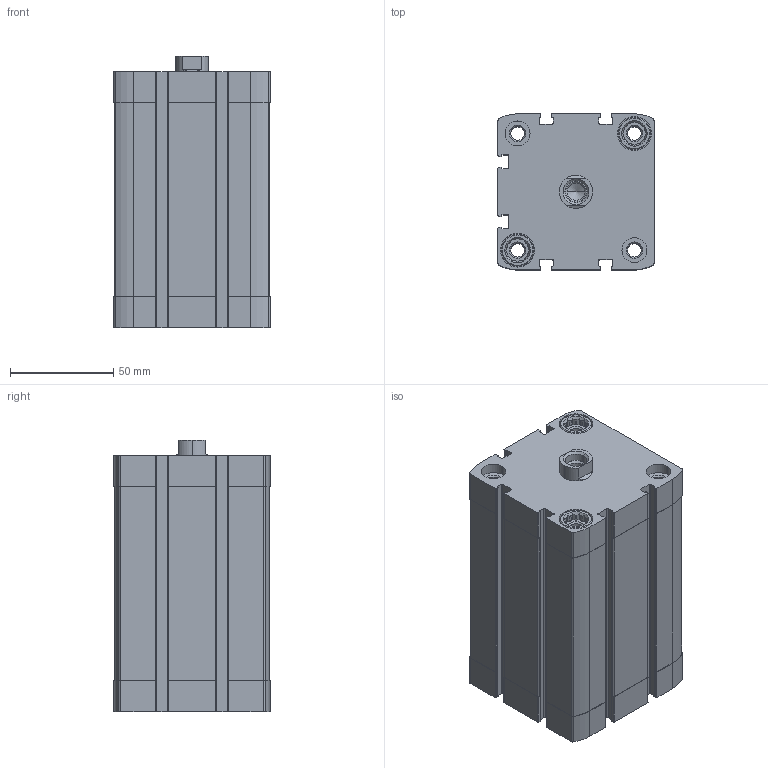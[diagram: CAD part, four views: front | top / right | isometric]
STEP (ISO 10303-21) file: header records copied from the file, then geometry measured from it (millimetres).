
FILE_DESCRIPTION (( 'STEP AP203' ), '1' );
FILE_NAME ('CCN63-75F.STEP', '2017-04-06T13:00:20', ( '' ), ( '' ), 'SwSTEP 2.0', 'SolidWorks 2016', '' );
FILE_SCHEMA (( 'CONFIG_CONTROL_DESIGN' ));
Length unit declared in the file: millimetre
Products named in the file (3): CCN-75_(KS); CCN63-75F; CCN-75----(Z)
Assembly tree (2 placements, depth 2):
  CCN63-75F
    CCN-75----(Z)
    CCN-75_(KS)
Bounding box: 75.5 x 75.5 x 131.5 mm (x, y, z)
Volume: 429895.9 mm3; surface area: 110530 mm2
Topology: 2 solids, 2 shells, 471 faces, 1274 edges, 837 vertices
Faces by surface type: plane 219, cylinder 210, cone 42
Entity records: 15309 total; most frequent: CARTESIAN_POINT 2879, DIRECTION 2596, ORIENTED_EDGE 2544, EDGE_CURVE 1272, AXIS2_PLACEMENT_3D 946, VERTEX_POINT 837, VECTOR 704, LINE 704
